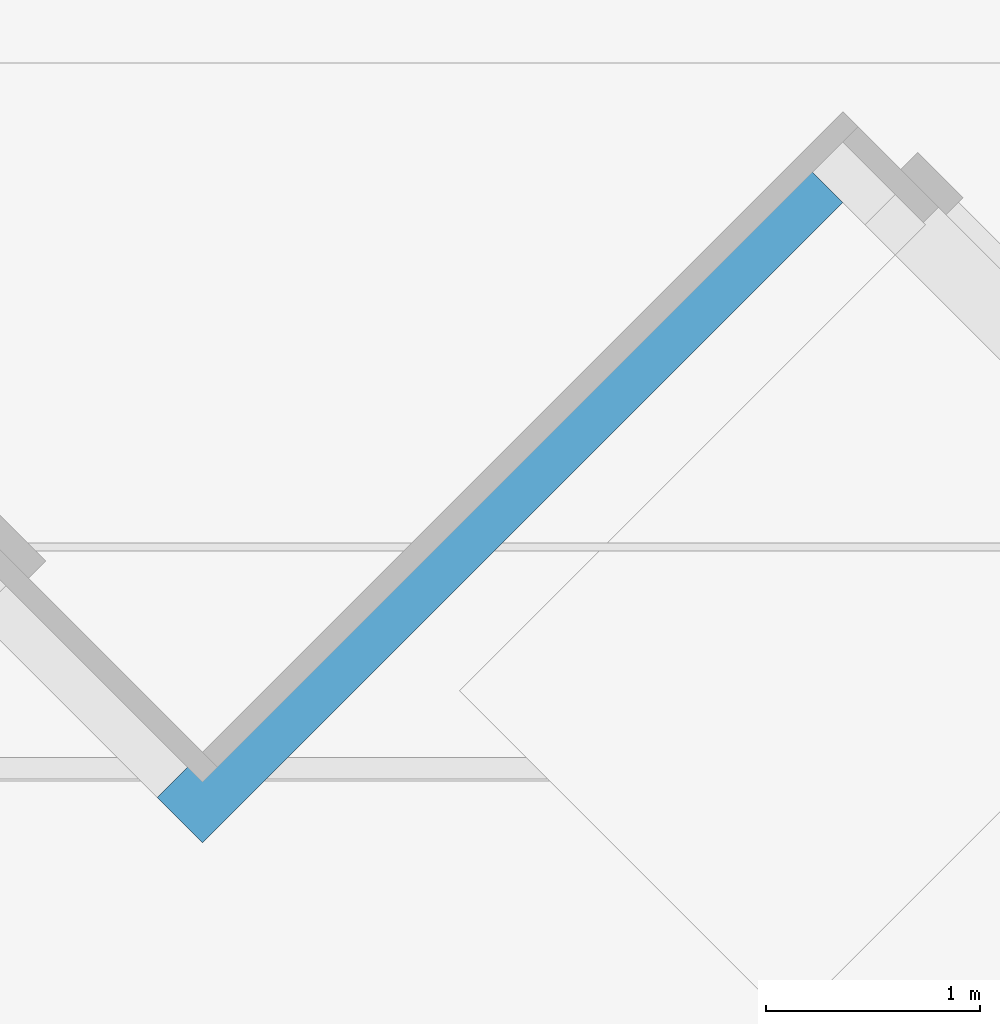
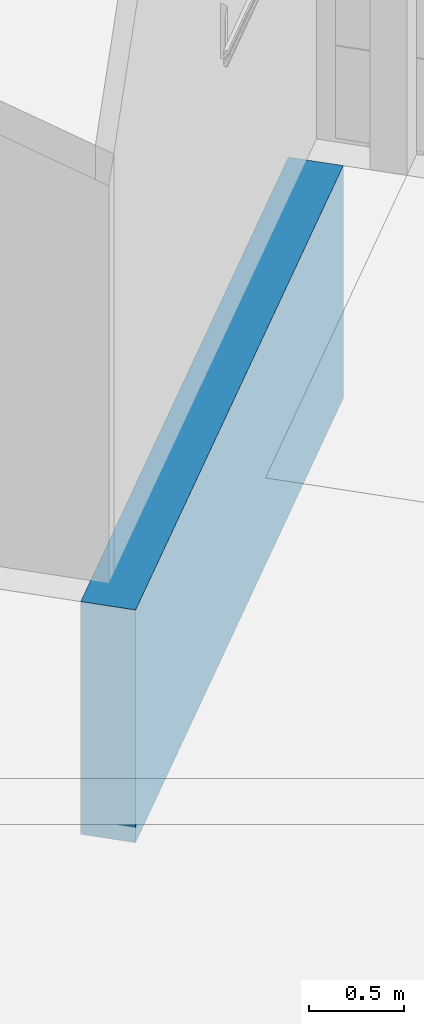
# One storey, part 49 of 64: 1 wall.
"""IFC2X3 building model written with IfcOpenShell, lengths in millimetres."""

from ifc_helpers import new_model, entity, si_unit, converted_unit, derived_unit, direction, frame, frame_2d, origin, place, context, subcontext, project, spatial, rectangle, extrude, material, layer, layer_set, layer_usage, type_object, element, save


model = new_model("IFC2X3")

# Units and contexts
model_context = context("Model", 3, precision=0.01, world=origin(), true_north=direction((4.05803320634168e-15, -1.0)))
body_context = subcontext(model_context, "Body", "Model", "MODEL_VIEW")
ifc_project = project(units=[si_unit("LENGTHUNIT", "METRE", prefix="MILLI"), si_unit("AREAUNIT", "SQUARE_METRE"), si_unit("VOLUMEUNIT", "CUBIC_METRE"), converted_unit("PLANEANGLEUNIT", "DEGREE", entity("IfcRatioMeasure", 0.0174532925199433), si_unit("PLANEANGLEUNIT", "RADIAN"), dimensions=[0, 0, 0, 0, 0, 0, 0]), si_unit("MASSUNIT", "GRAM", prefix="KILO"), derived_unit("MASSDENSITYUNIT", [(si_unit("MASSUNIT", "GRAM", prefix="KILO"), 1), (si_unit("LENGTHUNIT", "METRE"), -3)]), si_unit("TIMEUNIT", "SECOND"), si_unit("FREQUENCYUNIT", "HERTZ"), si_unit("THERMODYNAMICTEMPERATUREUNIT", "DEGREE_CELSIUS"), derived_unit("THERMALTRANSMITTANCEUNIT", [(si_unit("MASSUNIT", "GRAM", prefix="KILO"), 1), (si_unit("THERMODYNAMICTEMPERATUREUNIT", "KELVIN"), -1), (si_unit("TIMEUNIT", "SECOND"), -3)]), derived_unit("VOLUMETRICFLOWRATEUNIT", [(si_unit("LENGTHUNIT", "METRE"), 3), (si_unit("TIMEUNIT", "SECOND"), -1)]), si_unit("ELECTRICCURRENTUNIT", "AMPERE"), si_unit("ELECTRICVOLTAGEUNIT", "VOLT"), si_unit("POWERUNIT", "WATT"), si_unit("FORCEUNIT", "NEWTON", prefix="KILO"), si_unit("ILLUMINANCEUNIT", "LUX"), si_unit("LUMINOUSFLUXUNIT", "LUMEN"), si_unit("LUMINOUSINTENSITYUNIT", "CANDELA"), derived_unit("USERDEFINED", [(si_unit("MASSUNIT", "GRAM", prefix="KILO"), -1), (si_unit("LENGTHUNIT", "METRE"), -2), (si_unit("TIMEUNIT", "SECOND"), 3), (si_unit("LUMINOUSFLUXUNIT", "LUMEN"), 1)]), derived_unit("LINEARVELOCITYUNIT", [(si_unit("LENGTHUNIT", "METRE"), 1), (si_unit("TIMEUNIT", "SECOND"), -1)]), si_unit("PRESSUREUNIT", "PASCAL"), derived_unit("USERDEFINED", [(si_unit("LENGTHUNIT", "METRE"), -2), (si_unit("MASSUNIT", "GRAM", prefix="KILO"), 1), (si_unit("TIMEUNIT", "SECOND"), -2)])], contexts=[model_context])

# Site, building, storey
site_placement = place(None, frame((927466.849349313, 583801.882853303, 0.0), z_axis=(0.0, 0.0, 1.0), x_axis=(-1.0, 0.0, 0.0)))
site = spatial("IfcSite", under=ifc_project, at=site_placement, Name="Surface", CompositionType="ELEMENT")
building_placement = place(site_placement, origin())
building = spatial("IfcBuilding", under=site, at=building_placement, CompositionType="ELEMENT")
storey_placement = place(building_placement, frame((0.0, 0.0, 44170.0)))
storey = spatial("IfcBuildingStorey", under=building, at=storey_placement, Name="Ground FFL", CompositionType="ELEMENT", Elevation=44170.0)

# Wall
ifc_material = material(Name="conc bund")
ifc_layer = layer(ifc_material, 300.0)
ifc_layer_set = layer_set([ifc_layer], Name="Basic Wall:300 bund wall")
ifc_layer_usage = layer_usage(ifc_layer_set, "AXIS2", "POSITIVE", -150.0)
wall_type = type_object("IfcWallType", Name="Basic Wall:300 bund wall", PredefinedType="STANDARD", material=ifc_layer_set)
wall_placement = place(storey_placement, frame((-125832.987081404, -33356.1242200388, -1500.0), z_axis=(0.0, 0.0, 1.0), x_axis=(0.70710678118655, 0.707106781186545, 0.0)))
element("IfcWallStandardCase", 1, at=wall_placement, inside=storey, type_object=wall_type, material=ifc_layer_usage, Name="Basic Wall:300 bund wall", ObjectType="Basic Wall:300 bund wall", context=body_context, shape_type="SweptSolid", body=[
    extrude(rectangle(XDim=4232.26267936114, YDim=300.000000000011, at=frame_2d((2116.13133968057, -8.64019966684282e-12), x_axis=(-1.0, 0.0))), origin(), (0.0, 0.0, 1.0), 1500.00000000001),
])

save(model, "model.ifc")
